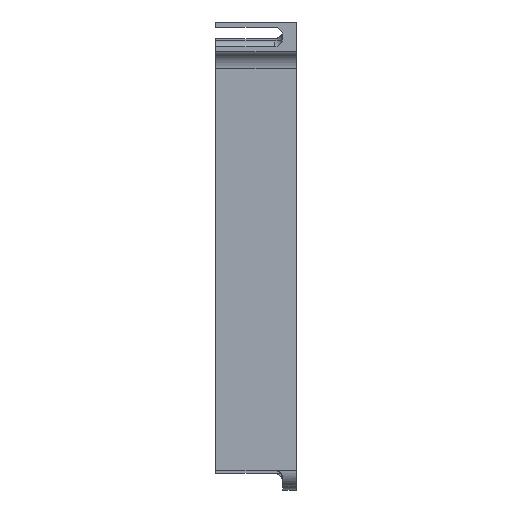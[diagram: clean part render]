
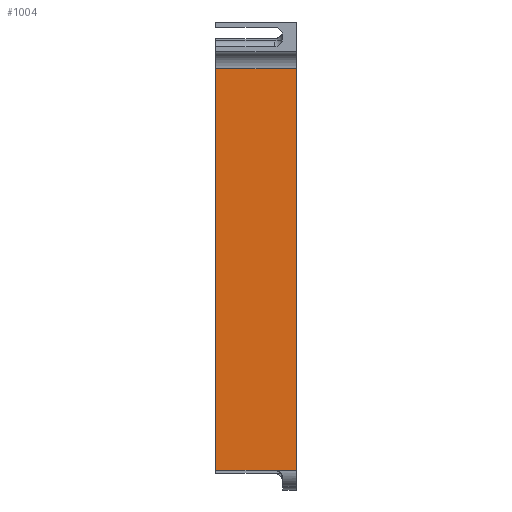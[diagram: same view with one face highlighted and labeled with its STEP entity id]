
A CAD part, left-side view. The second image highlights one B-rep face of the part: STEP entity #1004.
In plain terms, the highlighted planar face has unit normal (-1, 0, 0).
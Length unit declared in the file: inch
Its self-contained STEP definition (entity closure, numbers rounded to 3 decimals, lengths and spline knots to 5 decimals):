
#29 = LINE ( 'NONE', #1010, #2852 ) ;
#44 = EDGE_CURVE ( 'NONE', #2879, #1537, #1482, .T. ) ;
#91 = CARTESIAN_POINT ( 'NONE',  ( -0.40709, 0.25465, -2.56429 ) ) ;
#260 = EDGE_CURVE ( 'NONE', #1850, #2879, #2906, .T. ) ;
#269 = CARTESIAN_POINT ( 'NONE',  ( -0.40709, -0.00635, -2.56429 ) ) ;
#358 = VERTEX_POINT ( 'NONE', #91 ) ;
#463 = DIRECTION ( 'NONE',  ( 0., 0., 1. ) ) ;
#488 = ORIENTED_EDGE ( 'NONE', *, *, #2110, .T. ) ;
#603 = VECTOR ( 'NONE', #1188, 39.37008 ) ;
#627 = LINE ( 'NONE', #1340, #1744 ) ;
#742 = DIRECTION ( 'NONE',  ( 0., -1., 0. ) ) ;
#921 = AXIS2_PLACEMENT_3D ( 'NONE', #2840, #2832, #463 ) ;
#1004 = ADVANCED_FACE ( 'NONE', ( #1028 ), #2189, .T. ) ;
#1010 = CARTESIAN_POINT ( 'NONE',  ( -0.40709, 0.95, -2.56429 ) ) ;
#1028 = FACE_OUTER_BOUND ( 'NONE', #1704, .T. ) ;
#1061 = EDGE_CURVE ( 'NONE', #1850, #1253, #2314, .T. ) ;
#1130 = CARTESIAN_POINT ( 'NONE',  ( -0.40709, -0.00635, 2.19858 ) ) ;
#1177 = ORIENTED_EDGE ( 'NONE', *, *, #1341, .T. ) ;
#1187 = ORIENTED_EDGE ( 'NONE', *, *, #44, .F. ) ;
#1188 = DIRECTION ( 'NONE',  ( 0., -1., 0. ) ) ;
#1239 = CARTESIAN_POINT ( 'NONE',  ( -0.40709, 0.95, 2.19858 ) ) ;
#1253 = VERTEX_POINT ( 'NONE', #1771 ) ;
#1340 = CARTESIAN_POINT ( 'NONE',  ( -0.40709, 0.95, -2.56429 ) ) ;
#1341 = EDGE_CURVE ( 'NONE', #358, #1537, #29, .T. ) ;
#1477 = ORIENTED_EDGE ( 'NONE', *, *, #1061, .T. ) ;
#1482 = LINE ( 'NONE', #2129, #2050 ) ;
#1537 = VERTEX_POINT ( 'NONE', #269 ) ;
#1641 = DIRECTION ( 'NONE',  ( 0., 0., -1. ) ) ;
#1704 = EDGE_LOOP ( 'NONE', ( #488, #1177, #1187, #2956, #1477 ) ) ;
#1744 = VECTOR ( 'NONE', #2303, 39.37008 ) ;
#1756 = CARTESIAN_POINT ( 'NONE',  ( -0.40709, 0.95, 2.19858 ) ) ;
#1771 = CARTESIAN_POINT ( 'NONE',  ( -0.40709, 0.95, -2.56429 ) ) ;
#1850 = VERTEX_POINT ( 'NONE', #1239 ) ;
#2050 = VECTOR ( 'NONE', #1641, 39.37008 ) ;
#2058 = VECTOR ( 'NONE', #2098, 39.37008 ) ;
#2076 = CARTESIAN_POINT ( 'NONE',  ( -0.40709, 0.95, 0. ) ) ;
#2098 = DIRECTION ( 'NONE',  ( 0., 0., -1. ) ) ;
#2110 = EDGE_CURVE ( 'NONE', #1253, #358, #627, .T. ) ;
#2129 = CARTESIAN_POINT ( 'NONE',  ( -0.40709, -0.00635, 2.19858 ) ) ;
#2189 = PLANE ( 'NONE',  #921 ) ;
#2303 = DIRECTION ( 'NONE',  ( 0., -1., 0. ) ) ;
#2314 = LINE ( 'NONE', #2076, #2058 ) ;
#2832 = DIRECTION ( 'NONE',  ( -1., 0., 0. ) ) ;
#2840 = CARTESIAN_POINT ( 'NONE',  ( -0.40709, 0.95, 0. ) ) ;
#2852 = VECTOR ( 'NONE', #742, 39.37008 ) ;
#2879 = VERTEX_POINT ( 'NONE', #1130 ) ;
#2906 = LINE ( 'NONE', #1756, #603 ) ;
#2956 = ORIENTED_EDGE ( 'NONE', *, *, #260, .F. ) ;
